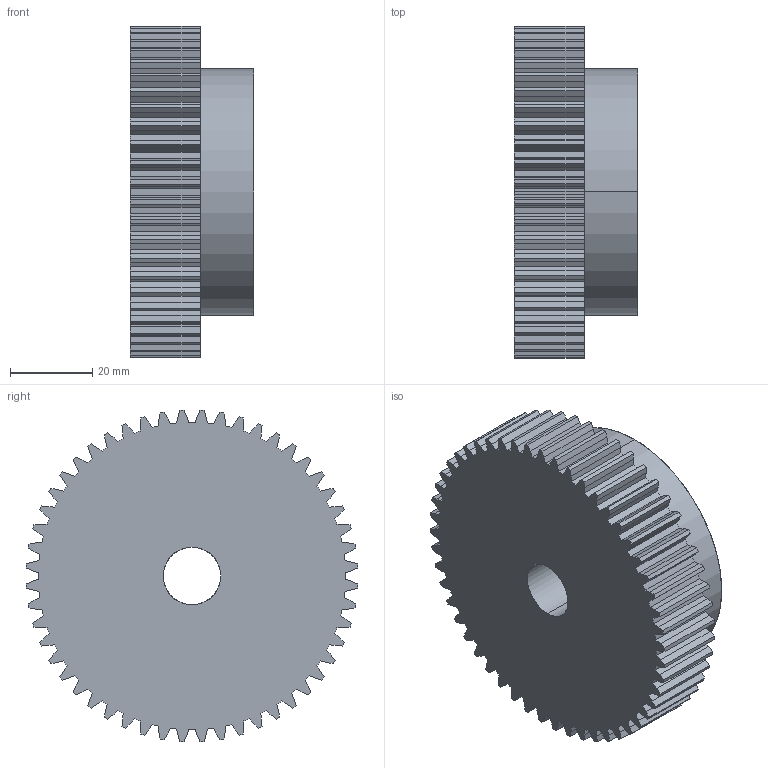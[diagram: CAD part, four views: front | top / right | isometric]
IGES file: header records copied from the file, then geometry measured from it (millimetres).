
Start section: SolidWorks IGES file using analytic representation for surfaces
Global section: file name: C:\Users\Honza\Desktop\Matis (Hotove)\Èelní ozubená kola\PM\MODUL 1,5\PM 27052.IGS; native system: SolidWorks 2010; preprocessor: SolidWorks 2010; author: Honza; date: 130924.133017; units: millimetre
Bounding box: 30 x 80.91 x 80.91 mm (x, y, z)
Surface area: 20806.5 mm2 (no closed solid volume)
Topology: 0 solids, 0 shells, 320 faces, 2086 edges, 2086 vertices
Faces by surface type: bspline 211, revolution 109
